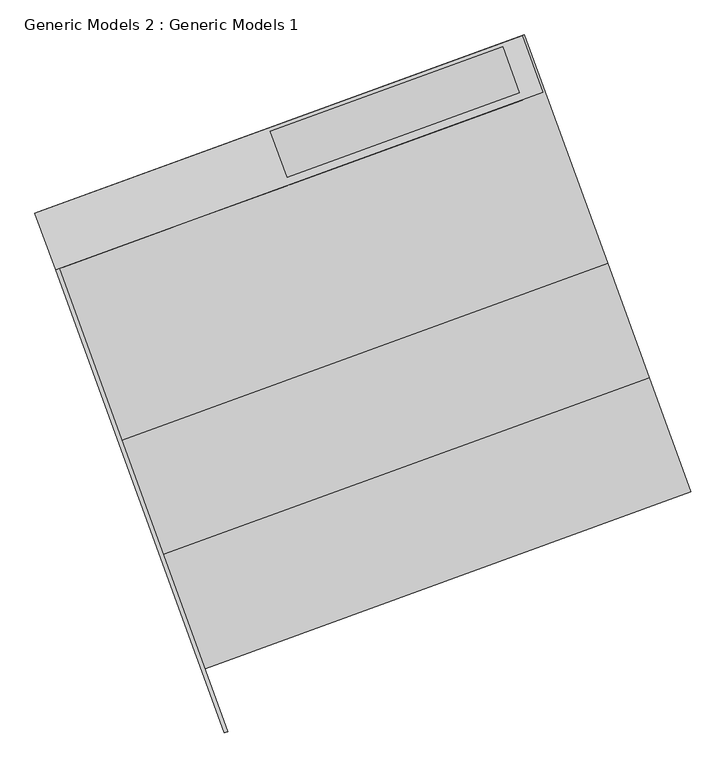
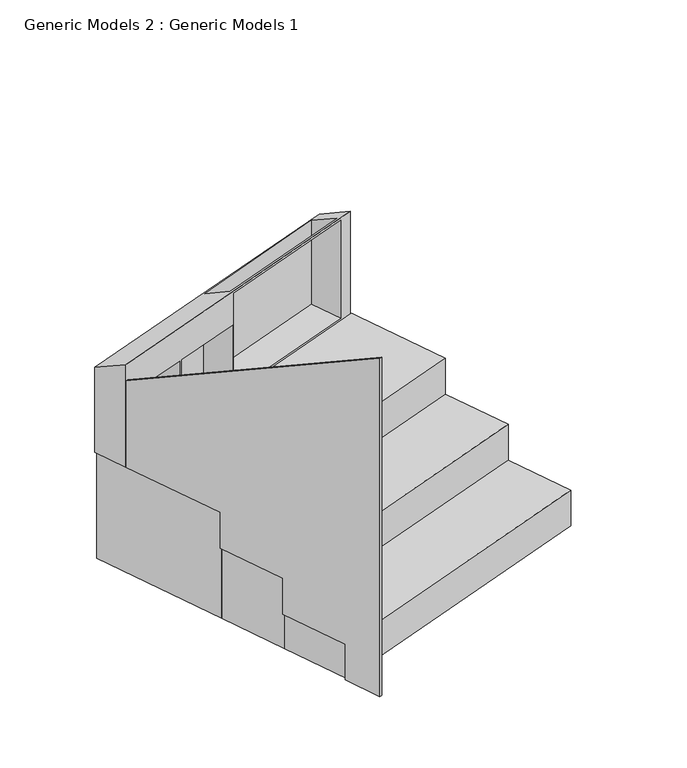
"""IFC4 building model written with IfcOpenShell, lengths in millimetres: proxy geometry, Generic Models 2 : Generic Models 1."""

from ifc_helpers import new_model, si_unit, frame, origin, place, context, project, spatial, polyline, outline, extrude, faceted_brep, source, transform, mapped, element, save


def generic_models_2_generic_models_1_7e94b017(model_context):
    return source(origin(), model_context, "Body", "SolidModel", [
        extrude(outline(polyline([(0.0, 0.0), (0.0, -3029.9999968), (-2432.5933356, -1732.6168845), (-2432.5933356, -960.0), (-1530.6825137, -960.0), (-1530.6825137, -640.0), (-930.6825137, -640.0), (-930.6825137, -320.0), (-330.6825137, -320.0), (-330.6825137, 0.0), (0.0, 0.0)])), frame((35503.1596855, 9400.4036481, 2500.0), z_axis=(0.9396926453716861, 0.3420200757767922, 0.0), x_axis=(0.3420200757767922, -0.9396926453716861, 0.0)), (0.0, 0.0, 1.0), 20.0),
        faceted_brep([(37076.6297034, 12561.8114605, 3460.0), (36974.6766469, 12841.9252437, 3460.0), (36974.6766469, 12841.9252437, 4218.8979257), (37076.6297034, 12561.8114605, 4377.8797145), (34671.1639285, 11686.2937147, 3460.0), (34671.1639285, 11686.2937147, 4377.8797145), (34569.210872, 11966.4074979, 4218.8979257), (34569.210872, 11966.4074979, 3460.0), (35731.2202953, 12370.092189, 4228.5464674), (36877.9657322, 12787.4733943, 4228.5464206), (36960.8763609, 12559.6783143, 4357.8341331), (35814.1308939, 12142.2971914, 4357.8341331), (35249.0749032, 11896.6360605, 4080.0), (35249.0749032, 11896.6360605, 3480.0), (34708.7516321, 11699.974517, 3480.0), (34708.7516321, 11699.974517, 4080.0), (35814.2624527, 12102.3474593, 3480.0), (35267.8687561, 11903.476462, 3480.0), (35267.8687561, 11903.476462, 4080.0), (35814.2624527, 12102.3474593, 4080.0), (36973.731347, 12524.35953, 4357.8341331), (36973.731347, 12524.35953, 3480.0), (35826.9858801, 12106.9784071, 3480.0), (35826.9858801, 12106.9784071, 4357.8341331), (35153.3093335, 12159.7498009, 4080.0), (34612.9860766, 11963.0882184, 4080.0), (34612.9860766, 11963.0882184, 3480.0), (35153.3093335, 12159.7498009, 3480.0), (35718.4968682, 12365.4612403, 4080.0), (35172.1031859, 12166.5902037, 4080.0), (35172.1031859, 12166.5902037, 3480.0), (35718.4968682, 12365.4612403, 3480.0), (35731.2202953, 12370.092189, 3480.0), (36877.9657322, 12787.4733943, 3480.0)], [[[0, 1, 2, 3]], [[4, 5, 6, 7]], [[1, 0, 4, 7]], [[2, 1, 7, 6]], [[3, 2, 6, 5], [8, 9, 10, 11]], [[0, 3, 5, 4], [12, 13, 14, 15], [16, 17, 18, 19], [20, 21, 22, 23]], [[24, 25, 26, 27]], [[28, 29, 30, 31]], [[32, 33, 9, 8]], [[24, 27, 13, 12]], [[27, 26, 14, 13]], [[26, 25, 15, 14]], [[25, 24, 12, 15]], [[31, 30, 17, 16]], [[30, 29, 18, 17]], [[29, 28, 19, 18]], [[28, 31, 16, 19]], [[33, 21, 20, 10, 9]], [[33, 32, 22, 21]], [[22, 32, 8, 11, 23]], [[10, 20, 23, 11]]]),
        extrude(outline(polyline([(35408.8534998, 9717.9839844), (35203.6414138, 10281.7995569), (37600.699089, 11154.2572005), (37805.911175, 10590.441628), (35408.8534998, 9717.9839844)])), frame((0.0, 0.0, 2500.0), z_axis=(0.0, 0.0, 1.0), x_axis=(1.0, 0.0, 0.0)), (0.0, 0.0, 1.0), 320.0),
        extrude(outline(polyline([(35203.6414138, 10281.7995569), (34998.4293278, 10845.6151294), (37395.4870097, 11718.0727754), (37600.6990957, 11154.2572029), (35203.6414138, 10281.7995569)])), frame((0.0, 0.0, 2500.0), z_axis=(0.0, 0.0, 1.0), x_axis=(1.0, 0.0, 0.0)), (0.0, 0.0, 1.0), 640.0),
        extrude(outline(polyline([(34998.4293278, 10845.6151294), (34588.0051552, 11973.2462759), (36985.0629723, 12845.7039711), (37395.4871448, 11718.0728246), (34998.4293278, 10845.6151294)])), frame((0.0, 0.0, 2500.0), z_axis=(0.0, 0.0, 1.0), x_axis=(1.0, 0.0, 0.0)), (0.0, 0.0, 1.0), 960.0),
    ])


if __name__ == "__main__":
    model = new_model("IFC4")
    model_context = context("Model", 3, world=origin())
    ifc_project = project(units=[si_unit("LENGTHUNIT", "METRE", prefix="MILLI")], contexts=[model_context])
    site = spatial("IfcSite", under=ifc_project)
    building = spatial("IfcBuilding", under=site)
    placement = place(None, origin())
    generic_models_2_generic_models_1_shape = generic_models_2_generic_models_1_7e94b017(model_context)
    element("IfcBuildingElementProxy", 1, Name="Generic Models 2 : Generic Models 1", ObjectType="Generic Models 2 : Generic Models 1", at=placement, inside=building, context=model_context, shape_type="MappedRepresentation", body=[
        mapped(generic_models_2_generic_models_1_shape, transform((0.0, 0.0, 0.0), x_axis=(1.0, 0.0, 0.0), y_axis=(0.0, 1.0, 0.0), z_axis=(0.0, 0.0, 1.0))),
    ])
    save(model, "model.ifc")
